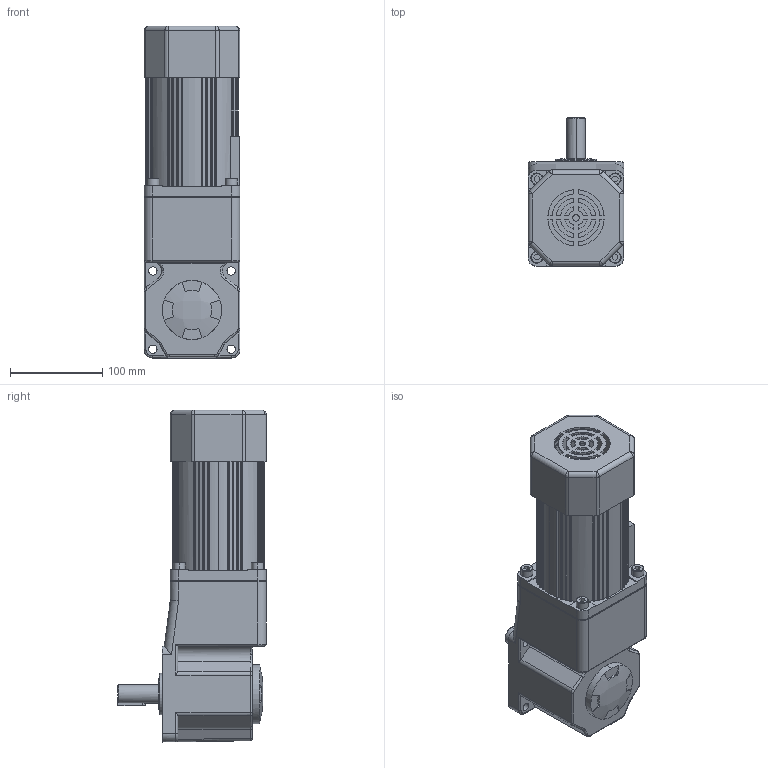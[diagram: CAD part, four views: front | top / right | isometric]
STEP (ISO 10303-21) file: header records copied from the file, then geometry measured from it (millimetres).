
FILE_DESCRIPTION (( 'STEP AP203' ), '1' );
FILE_NAME ('6IK200RGU-CF-6GU25RT-200W-笢妗蛌褒萇儂.STEP', '2024-11-25T02:19:43', ( 'Windows User' ), ( 'P R C' ), 'SwSTEP 2.0', 'SolidWorks 2016', '' );
FILE_SCHEMA (( 'CONFIG_CONTROL_DESIGN' ));
Length unit declared in the file: millimetre
Products named in the file (1): 6IK200RGU-CF-6GU25RT-200W-笢妗蛌褒萇儂
Bounding box: 104 x 161 x 360 mm (x, y, z)
Volume: 2397434.9 mm3; surface area: 302759.2 mm2
Topology: 30 solids, 30 shells, 1245 faces, 3392 edges, 2218 vertices
Faces by surface type: plane 654, cylinder 330, bspline 238, cone 23
Entity records: 49256 total; most frequent: CARTESIAN_POINT 18623, ORIENTED_EDGE 6764, DIRECTION 5609, EDGE_CURVE 3382, VECTOR 2245, LINE 2245, VERTEX_POINT 2218, AXIS2_PLACEMENT_3D 1682
